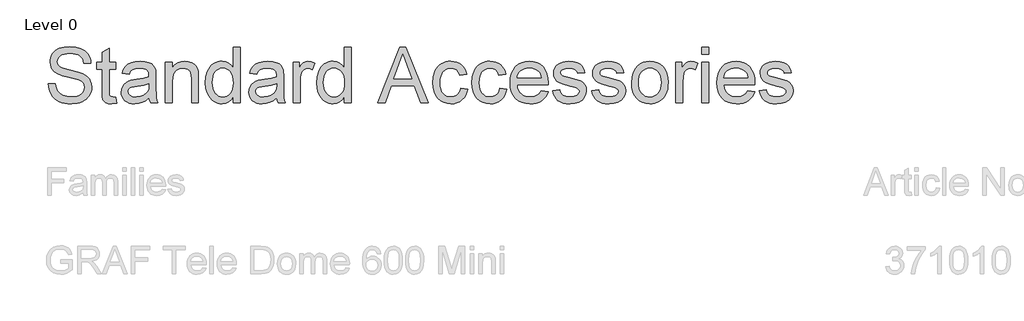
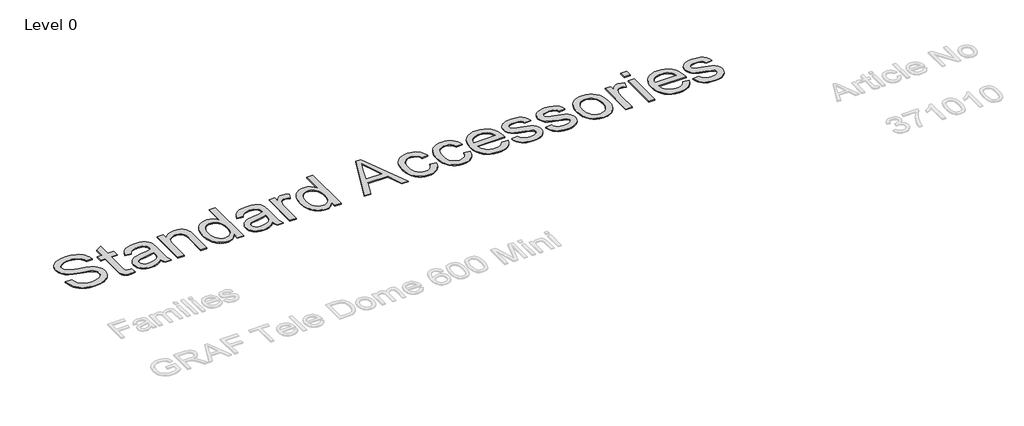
# One storey, part 12 of 20: 1 proxy.
"""IFC4 building model written with IfcOpenShell, lengths in millimetres."""

from ifc_helpers import new_model, si_unit, origin, origin_with_axes, place, context, project, spatial, polyline, outline, extrude, element, save

model = new_model("IFC4")

# Units and contexts
model_context = context("Model", 3, world=origin())
ifc_project = project(units=[si_unit("LENGTHUNIT", "METRE", prefix="MILLI")], contexts=[model_context])

# Site, building, storey
site = spatial("IfcSite", under=ifc_project)
building = spatial("IfcBuilding", under=site)
storey = spatial("IfcBuildingStorey", under=building, Name="Level 0", Elevation=0.0)

# Proxy
placement = place(None, origin())
element("IfcBuildingElementProxy", 1, Name="600mm Arial", ObjectType="600mm Arial", at=placement, inside=storey, context=model_context, shape_type="SweptSolid", body=[
    extrude(outline(polyline([(-15377.5518353, -7138.70625), (-15302.2096027, -7138.70625), (-15293.5643758, -7180.5160387), (-15277.9293911, -7214.122059), (-15253.5388148, -7240.7935036), (-15218.6268134, -7261.7995656), (-15175.952502, -7275.4295935), (-15128.2749954, -7279.9729361), (-15086.2996598, -7276.5332395), (-15049.5482484, -7266.2141495), (-15019.7682009, -7249.8801889), (-14998.7069567, -7228.3958804), (-14986.1805748, -7203.7293926), (-14982.0051141, -7177.8488943), (-14985.1321111, -7152.6305835), (-14994.513102, -7130.8335753), (-15013.5693893, -7112.2371404), (-15045.7222757, -7096.6205497), (-15155.4246867, -7067.8521777), (-15227.4375872, -7048.8142845), (-15273.5148071, -7030.6960962), (-15311.0203765, -7005.3490267), (-15337.5998507, -6974.6308801), (-15353.4371706, -6939.203844), (-15358.7162772, -6899.7301059), (-15357.0838008, -6877.2939027), (-15352.1863718, -6855.6026606), (-15344.02399, -6834.6563795), (-15332.5966555, -6814.4550594), (-15318.0331271, -6795.8218364), (-15300.4621633, -6779.5798463), (-15279.8837642, -6765.7290892), (-15256.2979297, -6754.269565), (-15203.2861342, -6738.8737035), (-15144.608956, -6733.7417497), (-15081.0389472, -6739.1128268), (-15025.4151896, -6755.2260582), (-15001.0797956, -6767.2282083), (-14979.7242458, -6781.7503501), (-14961.3485401, -6798.7924835), (-14945.9526786, -6818.3546086), (-14933.6562229, -6839.8665082), (-14924.5787347, -6862.7579654), (-14918.7202139, -6887.02898), (-14916.0806606, -6912.6795521), (-14991.4228932, -6912.6795521), (-14996.4628765, -6888.6384638), (-15005.2552562, -6867.7243723), (-15017.8000323, -6849.9372779), (-15034.0972046, -6835.2771804), (-15054.450276, -6823.8176562), (-15079.1627491, -6815.6322818), (-15108.2346237, -6810.7210572), (-15141.6659, -6809.0839823), (-15176.1640341, -6810.7026631), (-15205.640579, -6815.5587054), (-15230.0955346, -6823.6521093), (-15249.528901, -6834.9828748), (-15264.3361513, -6848.6037056), (-15274.9127587, -6863.5673058), (-15281.2587231, -6879.8736752), (-15283.3740446, -6897.5228139), (-15281.8749254, -6912.7071433), (-15277.3775681, -6926.475127), (-15269.8819724, -6938.8267649), (-15259.3881385, -6949.7620573), (-15242.8702369, -6960.1179354), (-15216.8609799, -6970.5841782), (-15136.3683993, -6991.8477575), (-15053.3006448, -7012.044479), (-15003.0479643, -7029.6660266), (-14960.0977413, -7056.9996588), (-14943.4924678, -7073.066905), (-14930.1337528, -7090.7344378), (-14919.8652466, -7109.9102868), (-14912.5305993, -7130.5024815), (-14906.6628815, -7175.9359079), (-14908.3505402, -7199.5033482), (-14913.4135161, -7222.3810098), (-14921.8518094, -7244.5688926), (-14933.66542, -7266.0669967), (-14948.6474142, -7286.042989), (-14966.5908585, -7303.6645366), (-14987.4957529, -7318.9316394), (-15011.3620973, -7331.8442974), (-15037.4955146, -7342.1128036), (-15065.2016273, -7349.4474509), (-15125.3319395, -7355.3151687), (-15163.872177, -7353.7332762), (-15199.1474618, -7348.9875984), (-15231.1577939, -7341.0781355), (-15259.9031733, -7330.0048875), (-15285.5583439, -7315.7494602), (-15308.2980498, -7298.2934595), (-15328.1222908, -7277.6368855), (-15345.031067, -7253.7797381), (-15358.6518978, -7227.4945695), (-15368.6123029, -7199.553932), (-15374.912282, -7169.9578255), (-15377.5518353, -7138.70625)])), origin_with_axes(), (0.0, 0.0, 1.0), 10.0),
    extrude(outline(polyline([(-14642.9650674, -7283.0631449), (-14633.5472883, -7348.1046816), (-14689.90681, -7355.3151687), (-14726.0696101, -7352.1881718), (-14753.0353603, -7342.8071809), (-14772.0916477, -7328.3494185), (-14784.5260591, -7309.9921069), (-14791.3686642, -7278.4646199), (-14793.6495326, -7224.4963313), (-14793.6495326, -6978.6040057), (-14850.1562071, -6978.6040057), (-14850.1562071, -6903.2617731), (-14793.6495326, -6903.2617731), (-14793.6495326, -6795.6930777), (-14718.3073, -6751.4000855), (-14718.3073, -6903.2617731), (-14642.9650674, -6903.2617731), (-14642.9650674, -6978.6040057), (-14718.3073, -6978.6040057), (-14718.3073, -7222.2890393), (-14714.3341744, -7261.137378), (-14701.4583046, -7274.8961646), (-14690.5873917, -7278.7037432), (-14675.7801413, -7279.9729361), (-14642.9650674, -7283.0631449)])), origin_with_axes(), (0.0, 0.0, 1.0), 10.0),
    extrude(outline(polyline([(-14285.0894625, -7289.3907152), (-14321.0867157, -7320.2560146), (-14358.1508267, -7340.4527361), (-14397.1279241, -7351.5995606), (-14438.8641365, -7355.3151687), (-14472.4103759, -7353.0802856), (-14501.8271399, -7346.3756363), (-14527.1144286, -7335.2012206), (-14548.2722418, -7319.5570388), (-14564.9786829, -7300.4363721), (-14576.9118551, -7278.8325019), (-14584.0717585, -7254.7454283), (-14586.4583929, -7228.1751512), (-14582.8531494, -7196.9419698), (-14572.0374187, -7168.578268), (-14555.3539702, -7144.2980563), (-14534.1455732, -7125.3153454), (-14509.221568, -7110.9679475), (-14481.3912951, -7100.5936753), (-14416.2026055, -7089.2629098), (-14339.1681158, -7077.3435332), (-14285.5309209, -7063.3640174), (-14285.0894625, -7046.5885984), (-14290.2765986, -7012.964184), (-14296.7605188, -7000.5113785), (-14305.838007, -6990.9648407), (-14321.5281741, -6981.436697), (-14340.6396437, -6974.6308801), (-14389.1264907, -6969.1862266), (-14434.0080941, -6972.8098643), (-14465.3516401, -6983.6807772), (-14486.725584, -7003.7855282), (-14501.6983812, -7035.1106801), (-14577.0406138, -7025.6929011), (-14563.9624089, -6984.4901176), (-14544.4462691, -6952.116502), (-14516.6711784, -6927.3580437), (-14478.8161211, -6909.0007322), (-14432.518172, -6897.6331785), (-14379.414406, -6893.843994), (-14328.4811438, -6897.1917201), (-14288.1060948, -6907.2348986), (-14257.6638597, -6922.3364545), (-14236.5290391, -6940.859313), (-14222.5127351, -6963.7599672), (-14213.4260498, -6991.9949103), (-14209.7472299, -7057.9193638), (-14209.7472299, -7151.6556962), (-14205.9212571, -7282.5481101), (-14200.2558744, -7314.9033316), (-14190.9116717, -7345.8973897), (-14266.2539043, -7345.8973897), (-14278.3204338, -7319.7041916), (-14285.0894625, -7289.3907152)]), holes=[polyline([(-14285.0894625, -7138.70625), (-14335.710025, -7151.251026), (-14406.6376737, -7161.8092393), (-14471.4584812, -7174.0229215), (-14488.3258707, -7182.3738428), (-14500.8154644, -7193.8885493), (-14508.5409863, -7207.6841241), (-14511.1161603, -7222.8776505), (-14505.5059599, -7245.281664), (-14488.6753586, -7263.6389755), (-14460.9922385, -7275.889446), (-14422.8244815, -7279.9729361), (-14382.357462, -7275.4663817), (-14346.5993321, -7261.9467184), (-14317.6102308, -7242.0259083), (-14297.4502975, -7218.3159137), (-14288.510765, -7193.8885493), (-14285.5309209, -7160.0434057), (-14285.0894625, -7138.70625)])]), origin_with_axes(), (0.0, 0.0, 1.0), 10.0),
    extrude(outline(polyline([(-14106.15166, -7345.8973897), (-14106.15166, -6903.2617731), (-14030.8094274, -6903.2617731), (-14030.8094274, -6965.0659483), (-14004.6346234, -6933.9063433), (-13973.199107, -6911.6494826), (-13936.5028779, -6898.2953661), (-13894.5459364, -6893.843994), (-13857.408249, -6897.4308434), (-13823.3975585, -6908.1913918), (-13795.0338567, -6924.7828698), (-13774.8371352, -6945.8625081), (-13761.1335308, -6971.3751245), (-13752.2491807, -7001.2655366), (-13748.2760551, -7074.1061716), (-13748.2760551, -7345.8973897), (-13823.6182877, -7345.8973897), (-13823.6182877, -7084.2597147), (-13825.7887915, -7045.3010114), (-13832.3003028, -7017.5994972), (-13844.3116499, -6997.7522635), (-13862.9816612, -6982.356402), (-13886.912385, -6972.4787705), (-13914.7058697, -6969.1862266), (-13937.5835313, -6971.0348336), (-13958.833315, -6976.5806547), (-13978.455221, -6985.8236898), (-13996.4492491, -6998.763939), (-14011.4818271, -7016.8729302), (-14022.2193828, -7041.6221914), (-14028.6619163, -7073.0117227), (-14030.8094274, -7111.0415239), (-14030.8094274, -7345.8973897), (-14106.15166, -7345.8973897)])), origin_with_axes(), (0.0, 0.0, 1.0), 10.0),
    extrude(outline(polyline([(-13371.564892, -7345.8973897), (-13371.564892, -7274.8225882), (-13394.1068613, -7310.0380922), (-13421.4129024, -7335.1920236), (-13453.4830153, -7350.2843825), (-13490.3172001, -7355.3151687), (-13515.186023, -7353.4941529), (-13539.0247763, -7348.0311052), (-13561.83346, -7338.9260259), (-13583.6120741, -7326.1789147), (-13603.6800369, -7310.1714494), (-13621.3567668, -7291.2853075), (-13636.6422637, -7269.5204889), (-13649.5365276, -7244.8769938), (-13659.7728441, -7217.8238716), (-13667.0844988, -7188.8301718), (-13672.9338225, -7125.0210398), (-13667.5443513, -7062.002854), (-13651.3759376, -7005.0915093), (-13639.2542258, -6979.7352428), (-13624.4469755, -6957.5243674), (-13606.9541867, -6938.458883), (-13586.7758592, -6922.5387896), (-13564.6247646, -6909.9848165), (-13541.2136741, -6901.0176929), (-13516.5425878, -6895.6374187), (-13490.6115057, -6893.843994), (-13453.7497298, -6898.9759478), (-13421.155385, -6914.3718093), (-13393.5274472, -6937.9714393), (-13371.564892, -6967.7146986), (-13371.564892, -6743.1595288), (-13296.2226594, -6743.1595288), (-13296.2226594, -7345.8973897), (-13371.564892, -7345.8973897)]), holes=[polyline([(-13597.5915899, -7124.7267342), (-13595.4670714, -7161.2620148), (-13589.0935158, -7192.8768738), (-13578.4709232, -7219.571311), (-13563.5992935, -7241.3453266), (-13545.8397902, -7258.2449058), (-13526.5535766, -7270.3160338), (-13505.7406527, -7277.5587105), (-13483.4010186, -7279.9729361), (-13460.9556183, -7277.6690751), (-13440.2668546, -7270.7574921), (-13421.3347275, -7259.2381872), (-13404.1592368, -7243.1111602), (-13389.899211, -7222.2476526), (-13379.7134782, -7196.5189055), (-13373.6020386, -7165.9249191), (-13371.564892, -7130.4656933), (-13373.6388268, -7091.5897634), (-13379.860631, -7058.2504576), (-13390.2303048, -7030.4477758), (-13404.747848, -7008.1817181), (-13422.3004177, -6991.1211906), (-13441.7751708, -6978.9350995), (-13463.1721074, -6971.6234448), (-13486.4912273, -6969.1862266), (-13509.2723199, -6971.5268758), (-13530.0852438, -6978.5488234), (-13548.929999, -6990.2520693), (-13565.8065855, -7006.6366137), (-13579.7125249, -7028.0611414), (-13589.6453388, -7054.8843374), (-13595.6050271, -7087.1062016), (-13597.5915899, -7124.7267342)])]), origin_with_axes(), (0.0, 0.0, 1.0), 10.0),
    extrude(outline(polyline([(-12900.6759382, -7289.3907152), (-12936.6731914, -7320.2560146), (-12973.7373025, -7340.4527361), (-13012.7143999, -7351.5995606), (-13054.4506122, -7355.3151687), (-13087.9968516, -7353.0802856), (-13117.4136157, -7346.3756363), (-13142.7009043, -7335.2012206), (-13163.8587176, -7319.5570388), (-13180.5651587, -7300.4363721), (-13192.4983309, -7278.8325019), (-13199.6582342, -7254.7454283), (-13202.0448687, -7228.1751512), (-13198.4396251, -7196.9419698), (-13187.6238945, -7168.578268), (-13170.940446, -7144.2980563), (-13149.732049, -7125.3153454), (-13124.8080438, -7110.9679475), (-13096.9777708, -7100.5936753), (-13031.7890813, -7089.2629098), (-12954.7545915, -7077.3435332), (-12901.1173966, -7063.3640174), (-12900.6759382, -7046.5885984), (-12905.8630744, -7012.964184), (-12912.3469945, -7000.5113785), (-12921.4244827, -6990.9648407), (-12937.1146498, -6981.436697), (-12956.2261195, -6974.6308801), (-13004.7129665, -6969.1862266), (-13049.5945699, -6972.8098643), (-13080.9381159, -6983.6807772), (-13102.3120598, -7003.7855282), (-13117.284857, -7035.1106801), (-13192.6270896, -7025.6929011), (-13179.5488847, -6984.4901176), (-13160.0327448, -6952.116502), (-13132.2576542, -6927.3580437), (-13094.4025969, -6909.0007322), (-13048.1046478, -6897.6331785), (-12995.0008818, -6893.843994), (-12944.0676196, -6897.1917201), (-12903.6925706, -6907.2348986), (-12873.2503355, -6922.3364545), (-12852.1155149, -6940.859313), (-12838.0992108, -6963.7599672), (-12829.0125256, -6991.9949103), (-12825.3337056, -7057.9193638), (-12825.3337056, -7151.6556962), (-12821.5077329, -7282.5481101), (-12815.8423501, -7314.9033316), (-12806.4981475, -7345.8973897), (-12881.8403801, -7345.8973897), (-12893.9069095, -7319.7041916), (-12900.6759382, -7289.3907152)]), holes=[polyline([(-12900.6759382, -7138.70625), (-12951.2965008, -7151.251026), (-13022.2241494, -7161.8092393), (-13087.044957, -7174.0229215), (-13103.9123465, -7182.3738428), (-13116.4019402, -7193.8885493), (-13124.1274621, -7207.6841241), (-13126.7026361, -7222.8776505), (-13121.0924356, -7245.281664), (-13104.2618344, -7263.6389755), (-13076.5787142, -7275.889446), (-13038.4109572, -7279.9729361), (-12997.9439377, -7275.4663817), (-12962.1858078, -7261.9467184), (-12933.1967066, -7242.0259083), (-12913.0367733, -7218.3159137), (-12904.0972408, -7193.8885493), (-12901.1173966, -7160.0434057), (-12900.6759382, -7138.70625)])]), origin_with_axes(), (0.0, 0.0, 1.0), 10.0),
    extrude(outline(polyline([(-12721.7381358, -7345.8973897), (-12721.7381358, -6903.2617731), (-12655.8136822, -6903.2617731), (-12655.8136822, -6968.7447682), (-12631.4598941, -6930.7793463), (-12609.0190924, -6908.412121), (-12586.5047143, -6897.4860257), (-12561.9301971, -6893.843994), (-12524.4062336, -6899.6565295), (-12486.2936589, -6917.0941361), (-12511.4567873, -6984.6372704), (-12537.944291, -6973.0489875), (-12564.4317946, -6969.1862266), (-12586.9277786, -6972.9018347), (-12607.0325297, -6984.0486592), (-12623.2745198, -7001.7805714), (-12634.1822209, -7025.2514427), (-12643.3424826, -7067.3371429), (-12646.3959032, -7113.2488159), (-12646.3959032, -7345.8973897), (-12721.7381358, -7345.8973897)])), origin_with_axes(), (0.0, 0.0, 1.0), 10.0),
    extrude(outline(polyline([(-12166.0891703, -7345.8973897), (-12166.0891703, -7274.8225882), (-12188.6311395, -7310.0380922), (-12215.9371806, -7335.1920236), (-12248.0072935, -7350.2843825), (-12284.8414783, -7355.3151687), (-12309.7103012, -7353.4941529), (-12333.5490545, -7348.0311052), (-12356.3577382, -7338.9260259), (-12378.1363523, -7326.1789147), (-12398.2043151, -7310.1714494), (-12415.881045, -7291.2853075), (-12431.1665419, -7269.5204889), (-12444.0608058, -7244.8769938), (-12454.2971223, -7217.8238716), (-12461.608777, -7188.8301718), (-12467.4581007, -7125.0210398), (-12462.0686295, -7062.002854), (-12445.9002158, -7005.0915093), (-12433.778504, -6979.7352428), (-12418.9712537, -6957.5243674), (-12401.4784649, -6938.458883), (-12381.3001374, -6922.5387896), (-12359.1490428, -6909.9848165), (-12335.7379523, -6901.0176929), (-12311.066866, -6895.6374187), (-12285.1357839, -6893.843994), (-12248.274008, -6898.9759478), (-12215.6796632, -6914.3718093), (-12188.0517254, -6937.9714393), (-12166.0891703, -6967.7146986), (-12166.0891703, -6743.1595288), (-12090.7469376, -6743.1595288), (-12090.7469376, -7345.8973897), (-12166.0891703, -7345.8973897)]), holes=[polyline([(-12392.1158681, -7124.7267342), (-12389.9913496, -7161.2620148), (-12383.617794, -7192.8768738), (-12372.9952014, -7219.571311), (-12358.1235717, -7241.3453266), (-12340.3640684, -7258.2449058), (-12321.0778548, -7270.3160338), (-12300.2649309, -7277.5587105), (-12277.9252968, -7279.9729361), (-12255.4798966, -7277.6690751), (-12234.7911328, -7270.7574921), (-12215.8590057, -7259.2381872), (-12198.683515, -7243.1111602), (-12184.4234892, -7222.2476526), (-12174.2377564, -7196.5189055), (-12168.1263168, -7165.9249191), (-12166.0891703, -7130.4656933), (-12168.163105, -7091.5897634), (-12174.3849092, -7058.2504576), (-12184.754583, -7030.4477758), (-12199.2721262, -7008.1817181), (-12216.8246959, -6991.1211906), (-12236.299449, -6978.9350995), (-12257.6963856, -6971.6234448), (-12281.0155055, -6969.1862266), (-12303.7965981, -6971.5268758), (-12324.609522, -6978.5488234), (-12343.4542772, -6990.2520693), (-12360.3308637, -7006.6366137), (-12374.2368031, -7028.0611414), (-12384.169617, -7054.8843374), (-12390.1293053, -7087.1062016), (-12392.1158681, -7124.7267342)])]), origin_with_axes(), (0.0, 0.0, 1.0), 10.0),
    extrude(outline(polyline([(-11803.0632174, -7345.8973897), (-11562.4683926, -6743.1595288), (-11498.3097726, -6743.1595288), (-11257.7149478, -7345.8973897), (-11337.3246115, -7345.8973897), (-11406.3392738, -7157.5418081), (-11654.5860442, -7157.5418081), (-11723.4535537, -7345.8973897), (-11803.0632174, -7345.8973897)]), holes=[polyline([(-11626.9213181, -7082.1995755), (-11433.8568471, -7082.1995755), (-11488.1562295, -6934.0167079), (-11530.3890826, -6818.5017614), (-11567.9130461, -6921.0672616), (-11626.9213181, -7082.1995755)])]), origin_with_axes(), (0.0, 0.0, 1.0), 10.0),
    extrude(outline(polyline([(-10904.106774, -7185.7951454), (-10828.7645414, -7195.2129244), (-10836.9591128, -7230.7641207), (-10849.7706033, -7262.2226299), (-10867.1990128, -7289.5884518), (-10889.2443414, -7312.8615865), (-10914.977687, -7331.4350287), (-10943.4701475, -7344.7017732), (-10974.721723, -7352.6618198), (-11008.7324134, -7355.3151687), (-11050.9882591, -7351.6133562), (-11088.8755061, -7340.5079184), (-11122.3941544, -7321.9988555), (-11151.544204, -7296.0861675), (-11175.1392354, -7263.257298), (-11191.9928293, -7223.9996906), (-11202.1049857, -7178.3133453), (-11205.4757044, -7126.1982621), (-11199.7183512, -7059.1517685), (-11192.5216597, -7028.9808464), (-11182.4462915, -7001.0448074), (-11169.4232689, -6975.9046715), (-11153.3836139, -6954.1214589), (-11134.3273266, -6935.6951695), (-11112.2544069, -6920.6258032), (-11088.1627347, -6908.9087617), (-11063.05019, -6900.5394463), (-11036.9167728, -6895.5178571), (-11009.762483, -6893.843994), (-10976.3358052, -6896.1432565), (-10946.1005037, -6903.0410439), (-10919.0565786, -6914.5373562), (-10895.2040297, -6930.6321935), (-10874.9475274, -6950.9576737), (-10858.6917417, -6975.1459149), (-10846.4366727, -7003.1969171), (-10838.1823205, -7035.1106801), (-10913.5245531, -7044.5284592), (-10927.1913692, -7011.6582029), (-10948.4733426, -6988.0953612), (-10976.193251, -6973.9135102), (-11009.1738718, -6969.1862266), (-11034.7738602, -6971.5130802), (-11057.8630539, -6978.4936411), (-11078.441453, -6990.1279092), (-11096.5090575, -7006.4158845), (-11111.2197388, -7027.7346461), (-11121.7273682, -7054.4612731), (-11128.0319459, -7086.5957654), (-11130.1334718, -7124.138123), (-11128.0779312, -7162.2460991), (-11121.9113092, -7194.7530719), (-11111.633606, -7221.6590414), (-11097.2448215, -7242.9640074), (-11079.5359019, -7259.1554137), (-11059.2977937, -7270.7207039), (-11036.5304967, -7277.6598781), (-11011.234011, -7279.9729361), (-10972.2201254, -7274.1971888), (-10955.3481374, -7266.9775046), (-10940.2327859, -7256.8699468), (-10927.2971353, -7243.7641507), (-10916.9642497, -7227.5497518), (-10909.2341293, -7208.22675), (-10904.106774, -7185.7951454)])), origin_with_axes(), (0.0, 0.0, 1.0), 10.0),
    extrude(outline(polyline([(-10480.3067156, -7185.7951454), (-10404.9644829, -7195.2129244), (-10413.1590544, -7230.7641207), (-10425.9705449, -7262.2226299), (-10443.3989544, -7289.5884518), (-10465.4442829, -7312.8615865), (-10491.1776285, -7331.4350287), (-10519.670089, -7344.7017732), (-10550.9216645, -7352.6618198), (-10584.932355, -7355.3151687), (-10627.1882007, -7351.6133562), (-10665.0754476, -7340.5079184), (-10698.5940959, -7321.9988555), (-10727.7441455, -7296.0861675), (-10751.339177, -7263.257298), (-10768.1927709, -7223.9996906), (-10778.3049272, -7178.3133453), (-10781.675646, -7126.1982621), (-10775.9182928, -7059.1517685), (-10768.7216012, -7028.9808464), (-10758.6462331, -7001.0448074), (-10745.6232105, -6975.9046715), (-10729.5835555, -6954.1214589), (-10710.5272681, -6935.6951695), (-10688.4543484, -6920.6258032), (-10664.3626763, -6908.9087617), (-10639.2501316, -6900.5394463), (-10613.1167143, -6895.5178571), (-10585.9624246, -6893.843994), (-10552.5357468, -6896.1432565), (-10522.3004453, -6903.0410439), (-10495.2565201, -6914.5373562), (-10471.4039713, -6930.6321935), (-10451.1474689, -6950.9576737), (-10434.8916832, -6975.1459149), (-10422.6366143, -7003.1969171), (-10414.382262, -7035.1106801), (-10489.7244946, -7044.5284592), (-10503.3913107, -7011.6582029), (-10524.6732842, -6988.0953612), (-10552.3931925, -6973.9135102), (-10585.3738134, -6969.1862266), (-10610.9738017, -6971.5130802), (-10634.0629954, -6978.4936411), (-10654.6413945, -6990.1279092), (-10672.708999, -7006.4158845), (-10687.4196803, -7027.7346461), (-10697.9273098, -7054.4612731), (-10704.2318875, -7086.5957654), (-10706.3334134, -7124.138123), (-10704.2778727, -7162.2460991), (-10698.1112508, -7194.7530719), (-10687.8335476, -7221.6590414), (-10673.444763, -7242.9640074), (-10655.7358435, -7259.1554137), (-10635.4977352, -7270.7207039), (-10612.7304382, -7277.6598781), (-10587.4339525, -7279.9729361), (-10548.420067, -7274.1971888), (-10531.548079, -7266.9775046), (-10516.4327275, -7256.8699468), (-10503.4970768, -7243.7641507), (-10493.1641913, -7227.5497518), (-10485.4340709, -7208.22675), (-10480.3067156, -7185.7951454)])), origin_with_axes(), (0.0, 0.0, 1.0), 10.0),
    extrude(outline(polyline([(-10029.1362367, -7214.0484826), (-9955.265532, -7223.4662617), (-9966.591699, -7253.0531711), (-9981.8817944, -7279.1268075), (-10001.1358183, -7301.6871709), (-10024.3537707, -7320.7342612), (-10051.2965284, -7335.8634082), (-10081.7249679, -7346.6699418), (-10115.6390893, -7353.153862), (-10153.0388926, -7355.3151687), (-10199.7874972, -7351.585765), (-10241.4409361, -7340.3975538), (-10277.9992094, -7321.7505352), (-10309.462317, -7295.6447091), (-10334.7634012, -7262.8066425), (-10352.8356042, -7223.9629024), (-10363.678926, -7179.1134886), (-10367.2933666, -7128.2584013), (-10363.6421378, -7075.6788672), (-10352.6884514, -7029.3349328), (-10334.4323074, -6989.2265983), (-10308.8737058, -6955.3538636), (-10277.4933716, -6928.4432956), (-10241.7720299, -6909.2214614), (-10201.7096806, -6897.6883608), (-10157.3063238, -6893.843994), (-10114.3331082, -6897.6791638), (-10075.470974, -6909.1846732), (-10040.719921, -6928.3605222), (-10010.0799493, -6955.2067108), (-9985.0685722, -6989.0058691), (-9967.2033028, -7029.0406272), (-9956.4841411, -7075.3109852), (-9952.9110873, -7127.8169429), (-9953.3525457, -7148.1240291), (-10291.951134, -7148.1240291), (-10287.5871339, -7178.1891851), (-10278.9097173, -7204.5203389), (-10265.9188843, -7227.1174905), (-10248.614635, -7245.9806398), (-10227.9534624, -7260.8522694), (-10204.8918599, -7271.474862), (-10179.4298273, -7277.8484176), (-10151.5673647, -7279.9729361), (-10111.4682272, -7276.0365988), (-10077.69666, -7264.2275867), (-10050.2526632, -7243.810136), (-10029.1362367, -7214.0484826)]), holes=[polyline([(-10291.951134, -7072.7817964), (-10028.2533199, -7072.7817964), (-10038.4436511, -7032.9769646), (-10047.2084397, -7017.3235857), (-10058.4196435, -7004.5028981), (-10078.9658529, -6989.0518543), (-10102.3447537, -6978.0153945), (-10128.5563459, -6971.3935186), (-10157.6006294, -6969.1862266), (-10184.0927316, -6970.9474617), (-10208.3867388, -6976.2311668), (-10230.4826512, -6985.0373421), (-10250.3804686, -6997.3659874), (-10267.0777126, -7012.6468858), (-10279.5719049, -7030.3098201), (-10287.8630454, -7050.3547903), (-10291.951134, -7072.7817964)])]), origin_with_axes(), (0.0, 0.0, 1.0), 10.0),
    extrude(outline(polyline([(-9905.8221919, -7214.0484826), (-9830.4799593, -7204.6307035), (-9825.9274196, -7221.8107927), (-9818.5973708, -7236.8571663), (-9808.489813, -7249.7698243), (-9795.6047461, -7260.5487668), (-9779.905382, -7269.0468409), (-9761.3549324, -7275.1168938), (-9715.7007768, -7279.9729361), (-9670.5984442, -7275.521564), (-9653.0688671, -7269.9573488), (-9638.8870162, -7262.1674476), (-9620.1250344, -7242.8168546), (-9615.434539, -7231.9827299), (-9613.8710405, -7220.3760529), (-9615.443736, -7210.2041157), (-9620.1618226, -7201.1726128), (-9639.034169, -7186.5309093), (-9667.250718, -7176.9659775), (-9716.5836936, -7165.0466008), (-9785.3408385, -7145.162579), (-9830.0385009, -7128.1848249), (-9858.7516906, -7109.6619665), (-9879.5554174, -7085.1426315), (-9892.192164, -7056.1903185), (-9896.4044128, -7024.3685259), (-9893.0198985, -6995.1770896), (-9882.8663554, -6968.2297334), (-9866.8634886, -6944.5933152), (-9845.9310031, -6925.3346928), (-9825.1272762, -6913.212981), (-9798.0327673, -6903.0410439), (-9766.7076154, -6896.1432565), (-9733.2119597, -6893.843994), (-9684.1732898, -6897.541208), (-9641.5357665, -6908.6328502), (-9607.2491646, -6926.0336686), (-9583.2632585, -6948.6584113), (-9567.3707563, -6978.1809414), (-9557.3643661, -7016.275122), (-9632.7065987, -7025.6929011), (-9642.2163482, -7001.9829065), (-9661.0335123, -6984.1222356), (-9689.3420318, -6972.9202288), (-9727.3258478, -6969.1862266), (-9770.5887705, -6972.754682), (-9799.4307189, -6983.460048), (-9815.6543149, -6998.9110918), (-9821.0621802, -7016.7165804), (-9818.8181, -7028.3048632), (-9812.0858595, -7038.6423473), (-9800.5711531, -7047.8761854), (-9783.9796751, -7055.2706135), (-9719.0852911, -7071.3102685), (-9608.4999634, -7106.7740928), (-9579.290133, -7123.7334528), (-9557.1436369, -7146.9468067), (-9543.1825151, -7176.4877309), (-9538.5288079, -7212.4298018), (-9543.9918555, -7249.5858833), (-9560.3809984, -7284.5346729), (-9587.0708372, -7314.5354496), (-9623.4359724, -7336.8474926), (-9667.3610826, -7350.6982497), (-9716.7308464, -7355.3151687), (-9757.2806393, -7353.0894827), (-9792.6984784, -7346.4124245), (-9822.9843636, -7335.2839941), (-9848.138295, -7319.7041916), (-9868.6845045, -7299.7465934), (-9885.1472238, -7275.4847758), (-9897.5264529, -7246.9187389), (-9905.8221919, -7214.0484826)])), origin_with_axes(), (0.0, 0.0, 1.0), 10.0),
    extrude(outline(polyline([(-9482.0221334, -7214.0484826), (-9406.6799008, -7204.6307035), (-9402.1273611, -7221.8107927), (-9394.7973124, -7236.8571663), (-9384.6897546, -7249.7698243), (-9371.8046877, -7260.5487668), (-9356.1053235, -7269.0468409), (-9337.5548739, -7275.1168938), (-9291.9007183, -7279.9729361), (-9246.7983857, -7275.521564), (-9229.2688087, -7269.9573488), (-9215.0869577, -7262.1674476), (-9196.324976, -7242.8168546), (-9191.6344805, -7231.9827299), (-9190.0709821, -7220.3760529), (-9191.6436776, -7210.2041157), (-9196.3617642, -7201.1726128), (-9215.2341105, -7186.5309093), (-9243.4506596, -7176.9659775), (-9292.7836351, -7165.0466008), (-9361.54078, -7145.162579), (-9406.2384424, -7128.1848249), (-9434.9516322, -7109.6619665), (-9455.755359, -7085.1426315), (-9468.3921055, -7056.1903185), (-9472.6043544, -7024.3685259), (-9469.21984, -6995.1770896), (-9459.0662969, -6968.2297334), (-9443.0634302, -6944.5933152), (-9422.1309446, -6925.3346928), (-9401.3272178, -6913.212981), (-9374.2327089, -6903.0410439), (-9342.907557, -6896.1432565), (-9309.4119013, -6893.843994), (-9260.3732313, -6897.541208), (-9217.7357081, -6908.6328502), (-9183.4491062, -6926.0336686), (-9159.4632001, -6948.6584113), (-9143.5706979, -6978.1809414), (-9133.5643076, -7016.275122), (-9208.9065402, -7025.6929011), (-9218.4162898, -7001.9829065), (-9237.2334538, -6984.1222356), (-9265.5419734, -6972.9202288), (-9303.5257894, -6969.1862266), (-9346.788712, -6972.754682), (-9375.6306604, -6983.460048), (-9391.8542564, -6998.9110918), (-9397.2621218, -7016.7165804), (-9395.0180416, -7028.3048632), (-9388.2858011, -7038.6423473), (-9376.7710946, -7047.8761854), (-9360.1796166, -7055.2706135), (-9295.2852327, -7071.3102685), (-9184.6999049, -7106.7740928), (-9155.4900745, -7123.7334528), (-9133.3435784, -7146.9468067), (-9119.3824567, -7176.4877309), (-9114.7287495, -7212.4298018), (-9120.1917971, -7249.5858833), (-9136.58094, -7284.5346729), (-9163.2707787, -7314.5354496), (-9199.6359139, -7336.8474926), (-9243.5610242, -7350.6982497), (-9292.9307879, -7355.3151687), (-9333.4805808, -7353.0894827), (-9368.8984199, -7346.4124245), (-9399.1843052, -7335.2839941), (-9424.3382366, -7319.7041916), (-9444.884446, -7299.7465934), (-9461.3471653, -7275.4847758), (-9473.7263944, -7246.9187389), (-9482.0221334, -7214.0484826)])), origin_with_axes(), (0.0, 0.0, 1.0), 10.0),
    extrude(outline(polyline([(-9048.8042959, -7124.5795814), (-9044.7300028, -7067.2543695), (-9032.5071235, -7017.8570146), (-9012.1356581, -6976.3875167), (-8983.6156064, -6942.8458757), (-8954.9024167, -6921.4075525), (-8923.2093828, -6906.0944644), (-8888.5365047, -6896.9066116), (-8850.8837825, -6893.843994), (-8809.3177156, -6897.5733977), (-8771.7339713, -6908.7616089), (-8738.1325495, -6927.4086275), (-8708.5134504, -6953.5144536), (-8684.3390048, -6986.1961704), (-8667.0715436, -7024.570861), (-8656.7110669, -7068.6385255), (-8653.2575747, -7118.3991638), (-8654.784285, -7158.7282276), (-8659.3644158, -7194.5139486), (-8666.9979672, -7225.7563271), (-8677.6849392, -7252.4553629), (-8691.2919745, -7275.5169655), (-8707.6857159, -7295.8470442), (-8726.8661634, -7313.4455992), (-8748.8333171, -7328.3126303), (-8772.7318512, -7340.1262409), (-8797.7064401, -7348.5645341), (-8823.7570839, -7353.6275101), (-8850.8837825, -7355.3151687), (-8893.0568547, -7351.5995606), (-8930.990087, -7340.4527361), (-8964.6834792, -7321.8746954), (-8994.1370314, -7295.8654383), (-9018.0539596, -7262.8664233), (-9035.1374798, -7223.3191089), (-9045.3875919, -7177.2234949), (-9048.8042959, -7124.5795814)]), holes=[polyline([(-8973.4620633, -7124.4324286), (-8971.2823625, -7160.9769063), (-8964.74326, -7192.6193564), (-8953.8447559, -7219.3597789), (-8938.5868502, -7241.1981738), (-8920.0272035, -7258.1621323), (-8899.2234767, -7270.2792456), (-8876.1756697, -7277.5495135), (-8850.8837825, -7279.9729361), (-8825.720654, -7277.5357179), (-8802.7648175, -7270.2240633), (-8782.016273, -7258.0379722), (-8763.4750205, -7240.9774446), (-8748.2171147, -7218.922919), (-8737.3186106, -7191.7548337), (-8730.7795081, -7159.4731886), (-8728.5998073, -7122.0779838), (-8730.7933037, -7086.6923344), (-8737.3737929, -7055.8776188), (-8748.3412749, -7029.6338369), (-8763.6957497, -7007.9609889), (-8782.3059801, -6990.9970304), (-8803.040729, -6978.8799172), (-8825.8999965, -6971.6096492), (-8850.8837825, -6969.1862266), (-8876.1756697, -6971.6004522), (-8899.2234767, -6978.843129), (-8920.0272035, -6990.9142569), (-8938.5868502, -7007.8138361), (-8953.8447559, -7029.5878517), (-8964.74326, -7056.282289), (-8971.2823625, -7087.8971479), (-8973.4620633, -7124.4324286)])]), origin_with_axes(), (0.0, 0.0, 1.0), 10.0),
    extrude(outline(polyline([(-8568.497563, -7345.8973897), (-8568.497563, -6903.2617731), (-8502.5731095, -6903.2617731), (-8502.5731095, -6968.7447682), (-8478.2193214, -6930.7793463), (-8455.7785197, -6908.412121), (-8433.2641416, -6897.4860257), (-8408.6896243, -6893.843994), (-8371.1656608, -6899.6565295), (-8333.0530861, -6917.0941361), (-8358.2162146, -6984.6372704), (-8384.7037182, -6973.0489875), (-8411.1912219, -6969.1862266), (-8433.6872059, -6972.9018347), (-8453.7919569, -6984.0486592), (-8470.033947, -7001.7805714), (-8480.9416482, -7025.2514427), (-8490.1019098, -7067.3371429), (-8493.1553304, -7113.2488159), (-8493.1553304, -7345.8973897), (-8568.497563, -7345.8973897)])), origin_with_axes(), (0.0, 0.0, 1.0), 10.0),
    extrude(outline(polyline([(-8285.9641907, -6818.5017614), (-8285.9641907, -6743.1595288), (-8210.6219581, -6743.1595288), (-8210.6219581, -6818.5017614), (-8285.9641907, -6818.5017614)])), origin_with_axes(), (0.0, 0.0, 1.0), 10.0),
    extrude(outline(polyline([(-8285.9641907, -7345.8973897), (-8285.9641907, -6903.2617731), (-8210.6219581, -6903.2617731), (-8210.6219581, -7345.8973897), (-8285.9641907, -7345.8973897)])), origin_with_axes(), (0.0, 0.0, 1.0), 10.0),
    extrude(outline(polyline([(-7787.7048165, -7214.0484826), (-7713.8341118, -7223.4662617), (-7725.1602787, -7253.0531711), (-7740.4503742, -7279.1268075), (-7759.7043981, -7301.6871709), (-7782.9223505, -7320.7342612), (-7809.8651081, -7335.8634082), (-7840.2935477, -7346.6699418), (-7874.2076691, -7353.153862), (-7911.6074724, -7355.3151687), (-7958.356077, -7351.585765), (-8000.0095159, -7340.3975538), (-8036.5677891, -7321.7505352), (-8068.0308968, -7295.6447091), (-8093.331981, -7262.8066425), (-8111.404184, -7223.9629024), (-8122.2475058, -7179.1134886), (-8125.8619464, -7128.2584013), (-8122.2107176, -7075.6788672), (-8111.2570312, -7029.3349328), (-8093.0008872, -6989.2265983), (-8067.4422856, -6955.3538636), (-8036.0619514, -6928.4432956), (-8000.3406097, -6909.2214614), (-7960.2782604, -6897.6883608), (-7915.8749036, -6893.843994), (-7872.901688, -6897.6791638), (-7834.0395537, -6909.1846732), (-7799.2885008, -6928.3605222), (-7768.6485291, -6955.2067108), (-7743.637152, -6989.0058691), (-7725.7718826, -7029.0406272), (-7715.0527209, -7075.3109852), (-7711.4796671, -7127.8169429), (-7711.9211254, -7148.1240291), (-8050.5197138, -7148.1240291), (-8046.1557136, -7178.1891851), (-8037.4782971, -7204.5203389), (-8024.4874641, -7227.1174905), (-8007.1832148, -7245.9806398), (-7986.5220422, -7260.8522694), (-7963.4604396, -7271.474862), (-7937.9984071, -7277.8484176), (-7910.1359444, -7279.9729361), (-7870.036807, -7276.0365988), (-7836.2652398, -7264.2275867), (-7808.821243, -7243.810136), (-7787.7048165, -7214.0484826)]), holes=[polyline([(-8050.5197138, -7072.7817964), (-7786.8218997, -7072.7817964), (-7797.0122309, -7032.9769646), (-7805.7770195, -7017.3235857), (-7816.9882233, -7004.5028981), (-7837.5344327, -6989.0518543), (-7860.9133335, -6978.0153945), (-7887.1249257, -6971.3935186), (-7916.1692092, -6969.1862266), (-7942.6613113, -6970.9474617), (-7966.9553186, -6976.2311668), (-7989.0512309, -6985.0373421), (-8008.9490484, -6997.3659874), (-8025.6462924, -7012.6468858), (-8038.1404847, -7030.3098201), (-8046.4316251, -7050.3547903), (-8050.5197138, -7072.7817964)])]), origin_with_axes(), (0.0, 0.0, 1.0), 10.0),
    extrude(outline(polyline([(-7664.3907717, -7214.0484826), (-7589.0485391, -7204.6307035), (-7584.4959994, -7221.8107927), (-7577.1659506, -7236.8571663), (-7567.0583928, -7249.7698243), (-7554.1733259, -7260.5487668), (-7538.4739618, -7269.0468409), (-7519.9235122, -7275.1168938), (-7474.2693566, -7279.9729361), (-7429.167024, -7275.521564), (-7411.6374469, -7269.9573488), (-7397.455596, -7262.1674476), (-7378.6936142, -7242.8168546), (-7374.0031188, -7231.9827299), (-7372.4396203, -7220.3760529), (-7374.0123158, -7210.2041157), (-7378.7304024, -7201.1726128), (-7397.6027488, -7186.5309093), (-7425.8192978, -7176.9659775), (-7475.1522734, -7165.0466008), (-7543.9094183, -7145.162579), (-7588.6070807, -7128.1848249), (-7617.3202704, -7109.6619665), (-7638.1239972, -7085.1426315), (-7650.7607437, -7056.1903185), (-7654.9729926, -7024.3685259), (-7651.5884782, -6995.1770896), (-7641.4349352, -6968.2297334), (-7625.4320684, -6944.5933152), (-7604.4995829, -6925.3346928), (-7583.695856, -6913.212981), (-7556.6013471, -6903.0410439), (-7525.2761952, -6896.1432565), (-7491.7805395, -6893.843994), (-7442.7418696, -6897.541208), (-7400.1043463, -6908.6328502), (-7365.8177444, -6926.0336686), (-7341.8318383, -6948.6584113), (-7325.9393361, -6978.1809414), (-7315.9329458, -7016.275122), (-7391.2751785, -7025.6929011), (-7400.784928, -7001.9829065), (-7419.6020921, -6984.1222356), (-7447.9106116, -6972.9202288), (-7485.8944276, -6969.1862266), (-7529.1573502, -6972.754682), (-7557.9992987, -6983.460048), (-7574.2228947, -6998.9110918), (-7579.63076, -7016.7165804), (-7577.3866798, -7028.3048632), (-7570.6544393, -7038.6423473), (-7559.1397329, -7047.8761854), (-7542.5482549, -7055.2706135), (-7477.6538709, -7071.3102685), (-7367.0685432, -7106.7740928), (-7337.8587128, -7123.7334528), (-7315.7122166, -7146.9468067), (-7301.7510949, -7176.4877309), (-7297.0973877, -7212.4298018), (-7302.5604353, -7249.5858833), (-7318.9495782, -7284.5346729), (-7345.6394169, -7314.5354496), (-7382.0045522, -7336.8474926), (-7425.9296624, -7350.6982497), (-7475.2994261, -7355.3151687), (-7515.8492191, -7353.0894827), (-7551.2670582, -7346.4124245), (-7581.5529434, -7335.2839941), (-7606.7068748, -7319.7041916), (-7627.2530843, -7299.7465934), (-7643.7158035, -7275.4847758), (-7656.0950327, -7246.9187389), (-7664.3907717, -7214.0484826)])), origin_with_axes(), (0.0, 0.0, 1.0), 10.0),
])

save(model, "model.ifc")
